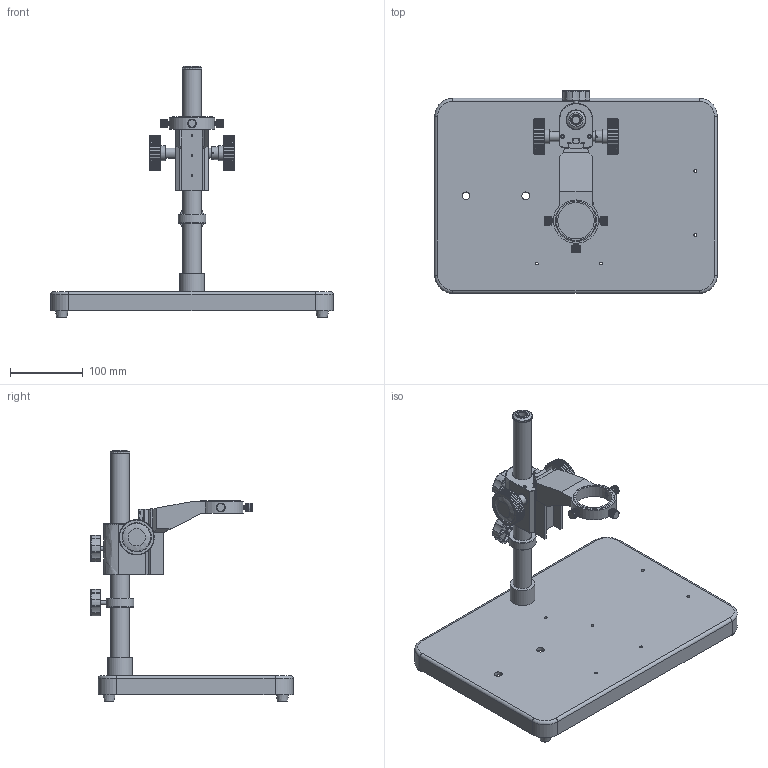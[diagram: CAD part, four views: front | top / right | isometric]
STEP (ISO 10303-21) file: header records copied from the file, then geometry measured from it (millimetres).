
FILE_DESCRIPTION(('STEP AP214'),'1');
FILE_NAME('GR-STD4.stp','2024-09-20T04:46:09',(' '),(' '),'Spatial InterOp 3D',' ',' ');
FILE_SCHEMA(('AUTOMOTIVE_DESIGN { 1 0 10303 214 1 1 1 1 }'));
Length unit declared in the file: metre
Products named in the file (5): GR-STD4; Component1; Component2; Component3; Component4
Assembly tree (4 placements, depth 2):
  GR-STD4
    Component1
    Component2
    Component3
    Component4
Bounding box: 388 x 278.12 x 345.9 mm (x, y, z)
Volume: 902872.6 mm3; surface area: 442545.3 mm2
Topology: 6 solids, 11 shells, 2829 faces, 6911 edges, 4215 vertices
Faces by surface type: plane 2013, cylinder 571, bspline 140, torus 65, cone 40
Full cylindrical faces by diameter (mm): 1.5 x4, 2.5 x3, 3.9 x2, 4 x12, 4.6 x3, 4.8 x3, 5.5 x3, 5.7 x3, 5.8 x1, 6 x2, 6.5 x5, 6.9 x1, 7 x2, 7.3 x4, 9.8 x3, 9.9 x2, 10 x3, 10.5 x3, 11.7 x6, 12.8 x1, 14 x2, 14.9 x2, 15.2 x1, 17.4 x1, 17.6 x1, 18 x2, 20.2 x2, 21 x3, 25 x3, 28.8 x2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
Entity records: 187319 total; most frequent: CARTESIAN_POINT 65944, DIRECTION 13478, ORIENTED_EDGE 13282, STYLED_ITEM 9476, PRESENTATION_STYLE_ASSIGNMENT 9476, COLOUR_RGB 9476, EDGE_CURVE 6641, CURVE_STYLE 6641
